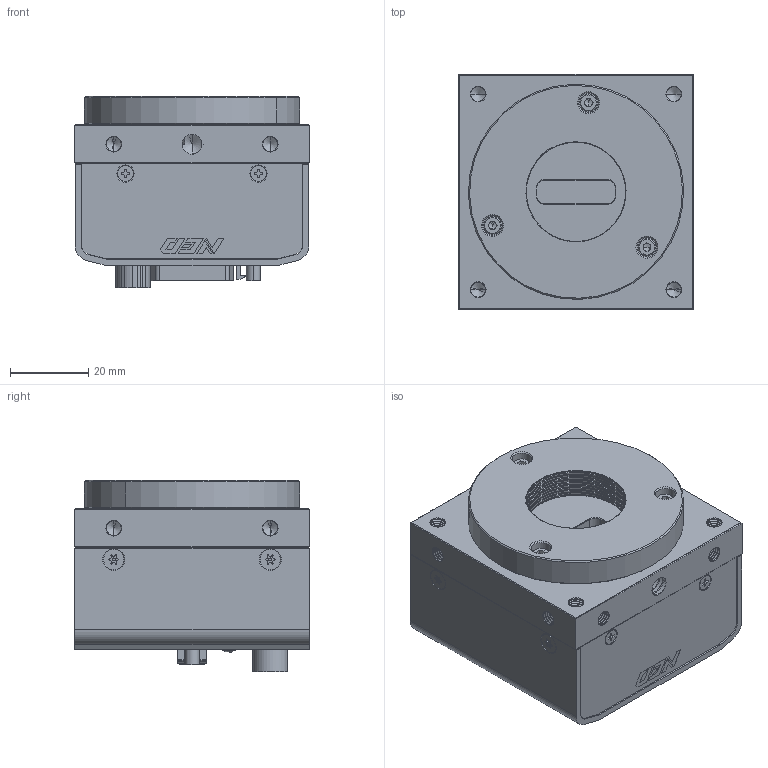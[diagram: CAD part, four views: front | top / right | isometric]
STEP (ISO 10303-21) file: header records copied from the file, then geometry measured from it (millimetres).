
FILE_DESCRIPTION (( 'STEP AP203' ), '1' );
FILE_NAME ('XCM2040DLM_Cmount_AP203.STEP', '2016-04-10T23:12:52', ( 'H-TOYOTA2' ), ( 'Microsoft' ), 'SwSTEP 2.0', 'SolidWorks 2016', '' );
FILE_SCHEMA (( 'CONFIG_CONTROL_DESIGN' ));
Length unit declared in the file: millimetre
Products named in the file (11): CameraLink Connector(MDR26); Power Connector(HIROSE HR10A 4P); indicator; M2_皿ネジ; M2.6皿ネジ特殊; アトメルCマウント; フロントパネル; M2.6-5CAP; サイドパネル; XCM2040DLM_Cmount_AP203; 背面カバー
Assembly tree (19 placements, depth 2):
  XCM2040DLM_Cmount_AP203
    フロントパネル
    サイドパネル  x2
    背面カバー
    CameraLink Connector(MDR26)
    Power Connector(HIROSE HR10A 4P)
    indicator
    M2_皿ネジ  x4
    M2.6皿ネジ特殊  x4
    アトメルCマウント
    M2.6-5CAP  x3
Bounding box: 60 x 60 x 48.86 mm (x, y, z)
Volume: 72123.3 mm3; surface area: 41991.3 mm2
Topology: 31 solids, 31 shells, 1273 faces, 3229 edges, 2064 vertices
Faces by surface type: cylinder 561, plane 508, cone 142, bspline 60, sphere 2
Entity records: 44068 total; most frequent: CARTESIAN_POINT 20825, ORIENTED_EDGE 4922, DIRECTION 4230, EDGE_CURVE 2461, VERTEX_POINT 1594, AXIS2_PLACEMENT_3D 1461, VECTOR 1308, LINE 1308
